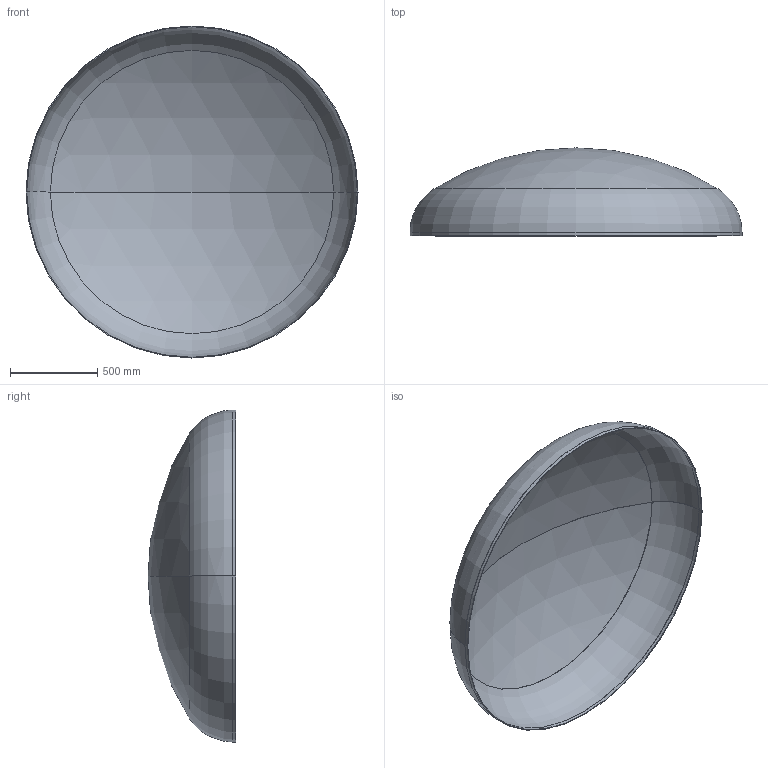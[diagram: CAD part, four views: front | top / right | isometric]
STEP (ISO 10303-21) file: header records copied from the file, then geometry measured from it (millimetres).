
FILE_DESCRIPTION (( 'STEP AP203' ), '1' );
FILE_NAME ('DIN 28013 Korbbogenform_-_Boden DIN 28013 - 1900 x 20 - I - s=4.step', '2016-07-01T12:51:05', ( '' ), ( '' ), 'SwSTEP 2.0', 'SolidWorks 2013', '' );
FILE_SCHEMA (( 'CONFIG_CONTROL_DESIGN' ));
Length unit declared in the file: millimetre
Products named in the file (1): DIN 28013 Korbbogenform_-_Boden DIN 28013 - 1900 x 20 - I - s=4
Bounding box: 1900 x 503.54 x 1900 mm (x, y, z)
Volume: 16114578 mm3; surface area: 8081145.1 mm2
Topology: 1 solids, 1 shells, 13 faces, 24 edges, 14 vertices
Faces by surface type: torus 4, cylinder 4, sphere 4, plane 1
Entity records: 407 total; most frequent: DIRECTION 72, CARTESIAN_POINT 52, ORIENTED_EDGE 48, AXIS2_PLACEMENT_3D 34, EDGE_CURVE 24, CIRCLE 20, EDGE_LOOP 14, VERTEX_POINT 14
